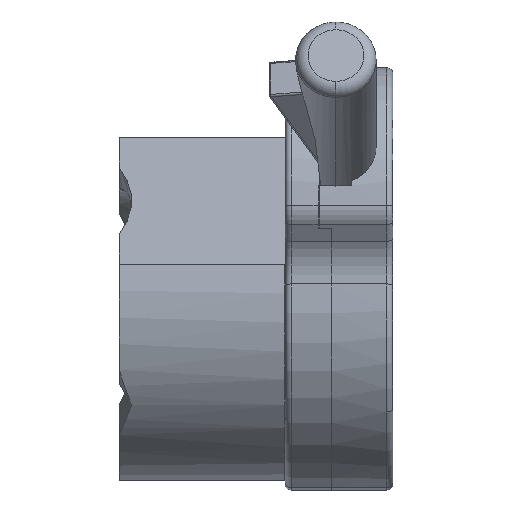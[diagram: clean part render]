
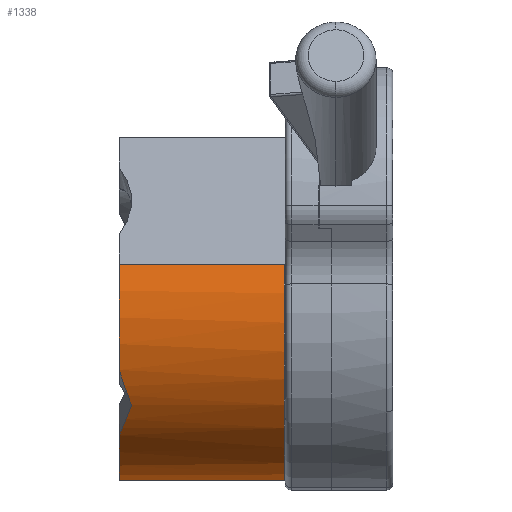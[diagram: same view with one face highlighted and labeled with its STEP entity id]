
A CAD part, top view. The second image highlights one B-rep face of the part: STEP entity #1338.
In plain terms, the highlighted cylindrical face has radius 28 mm (diameter 56 mm), a partial arc.
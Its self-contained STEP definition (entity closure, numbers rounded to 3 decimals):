
#345 = DIRECTION ( 'NONE',  ( 0., 0.556, -0.831 ) ) ;
#349 = DIRECTION ( 'NONE',  ( -1., 0., 0. ) ) ;
#350 = CARTESIAN_POINT ( 'NONE',  ( -12.738, -36.826, -15.326 ) ) ;
#1145 = EDGE_LOOP ( 'NONE', ( #6322, #6323, #6324, #6325, #6326, #6327, #6328 ) ) ;
#1338 = ADVANCED_FACE ( 'NONE', ( #7864 ), #7867, .T. ) ;
#1962 = VERTEX_POINT ( 'NONE', #4503 ) ;
#1963 = VERTEX_POINT ( 'NONE', #4504 ) ;
#1965 = VERTEX_POINT ( 'NONE', #4506 ) ;
#1966 = VERTEX_POINT ( 'NONE', #4507 ) ;
#2015 = VERTEX_POINT ( 'NONE', #4556 ) ;
#4503 = CARTESIAN_POINT ( 'NONE',  ( -12.738, -29.654, 11.74 ) ) ;
#4504 = CARTESIAN_POINT ( 'NONE',  ( -12.738, -64.576, -11.594 ) ) ;
#4506 = CARTESIAN_POINT ( 'NONE',  ( -39.438, -57.251, 3.825 ) ) ;
#4507 = CARTESIAN_POINT ( 'NONE',  ( -39.438, -64.576, -11.594 ) ) ;
#4556 = CARTESIAN_POINT ( 'NONE',  ( -37.438, -52.381, 7.955 ) ) ;
#4899 = CARTESIAN_POINT ( 'NONE',  ( -39.438, -29.654, 11.74 ) ) ;
#5436 = VERTEX_POINT ( 'NONE', #4899 ) ;
#6322 = ORIENTED_EDGE ( 'NONE', *, *, #6812, .F. ) ;
#6323 = ORIENTED_EDGE ( 'NONE', *, *, #6799, .T. ) ;
#6324 = ORIENTED_EDGE ( 'NONE', *, *, #6889, .F. ) ;
#6325 = ORIENTED_EDGE ( 'NONE', *, *, #6887, .T. ) ;
#6326 = ORIENTED_EDGE ( 'NONE', *, *, #6814, .T. ) ;
#6327 = ORIENTED_EDGE ( 'NONE', *, *, #6805, .F. ) ;
#6328 = ORIENTED_EDGE ( 'NONE', *, *, #6807, .T. ) ;
#6799 = EDGE_CURVE ( 'NONE', #1962, #5436, #9894, .T. ) ;
#6805 = EDGE_CURVE ( 'NONE', #1966, #1965, #9906, .T. ) ;
#6807 = EDGE_CURVE ( 'NONE', #1966, #1963, #9903, .T. ) ;
#6812 = EDGE_CURVE ( 'NONE', #1962, #1963, #9913, .T. ) ;
#6814 = EDGE_CURVE ( 'NONE', #2015, #1965, #9767, .T. ) ;
#6887 = EDGE_CURVE ( 'NONE', #11069, #2015, #11052, .T. ) ;
#6889 = EDGE_CURVE ( 'NONE', #11069, #5436, #9985, .T. ) ;
#7017 = AXIS2_PLACEMENT_3D ( 'NONE', #350, #349, #345 ) ;
#7864 = FACE_OUTER_BOUND ( 'NONE', #1145, .T. ) ;
#7867 = CYLINDRICAL_SURFACE ( 'NONE', #7017, 28. ) ;
#9232 = AXIS2_PLACEMENT_3D ( 'NONE', #10571, #10572, #10573 ) ;
#9236 = AXIS2_PLACEMENT_3D ( 'NONE', #10592, #10593, #10594 ) ;
#9767 = B_SPLINE_CURVE_WITH_KNOTS ( 'NONE', 3,
 ( #10588, #10598, #10599, #10600 ),
 .UNSPECIFIED., .F., .F.,
 ( 4, 4 ),
 ( 0., 1. ),
 .UNSPECIFIED. ) ;
#9891 = VECTOR ( 'NONE', #10557, 1000. ) ;
#9894 = LINE ( 'NONE', #10535, #9891 ) ;
#9903 = LINE ( 'NONE', #10578, #9904 ) ;
#9904 = VECTOR ( 'NONE', #10579, 1000. ) ;
#9906 = CIRCLE ( 'NONE', #9232, 28. ) ;
#9913 = CIRCLE ( 'NONE', #9236, 28. ) ;
#9985 = CIRCLE ( 'NONE', #11018, 28. ) ;
#10535 = CARTESIAN_POINT ( 'NONE',  ( -12.738, -29.654, 11.74 ) ) ;
#10557 = DIRECTION ( 'NONE',  ( -1., 0., 0. ) ) ;
#10571 = CARTESIAN_POINT ( 'NONE',  ( -39.438, -36.826, -15.326 ) ) ;
#10572 = DIRECTION ( 'NONE',  ( -1., 0., 0. ) ) ;
#10573 = DIRECTION ( 'NONE',  ( 0., -0.991, 0.133 ) ) ;
#10578 = CARTESIAN_POINT ( 'NONE',  ( -39.438, -64.576, -11.594 ) ) ;
#10579 = DIRECTION ( 'NONE',  ( 1., 0., 0. ) ) ;
#10588 = CARTESIAN_POINT ( 'NONE',  ( -37.438, -52.381, 7.955 ) ) ;
#10592 = CARTESIAN_POINT ( 'NONE',  ( -12.738, -36.826, -15.326 ) ) ;
#10593 = DIRECTION ( 'NONE',  ( 1., 0., 0. ) ) ;
#10594 = DIRECTION ( 'NONE',  ( 0., 0.256, 0.967 ) ) ;
#10598 = CARTESIAN_POINT ( 'NONE',  ( -38.112, -54.161, 6.766 ) ) ;
#10599 = CARTESIAN_POINT ( 'NONE',  ( -38.779, -55.784, 5.39 ) ) ;
#10600 = CARTESIAN_POINT ( 'NONE',  ( -39.438, -57.251, 3.825 ) ) ;
#10904 = CARTESIAN_POINT ( 'NONE',  ( -39.438, -46.703, 10.874 ) ) ;
#10908 = CARTESIAN_POINT ( 'NONE',  ( -38.779, -48.71, 10.117 ) ) ;
#10909 = CARTESIAN_POINT ( 'NONE',  ( -38.112, -50.602, 9.144 ) ) ;
#10910 = CARTESIAN_POINT ( 'NONE',  ( -37.438, -52.381, 7.955 ) ) ;
#10915 = CARTESIAN_POINT ( 'NONE',  ( -39.438, -36.826, -15.326 ) ) ;
#10917 = DIRECTION ( 'NONE',  ( -1., 0., 0. ) ) ;
#10918 = DIRECTION ( 'NONE',  ( 0., -0.353, 0.936 ) ) ;
#10977 = CARTESIAN_POINT ( 'NONE',  ( -39.438, -46.703, 10.874 ) ) ;
#11018 = AXIS2_PLACEMENT_3D ( 'NONE', #10915, #10917, #10918 ) ;
#11052 = B_SPLINE_CURVE_WITH_KNOTS ( 'NONE', 3,
 ( #10904, #10908, #10909, #10910 ),
 .UNSPECIFIED., .F., .F.,
 ( 4, 4 ),
 ( 0., 1. ),
 .UNSPECIFIED. ) ;
#11069 = VERTEX_POINT ( 'NONE', #10977 ) ;
